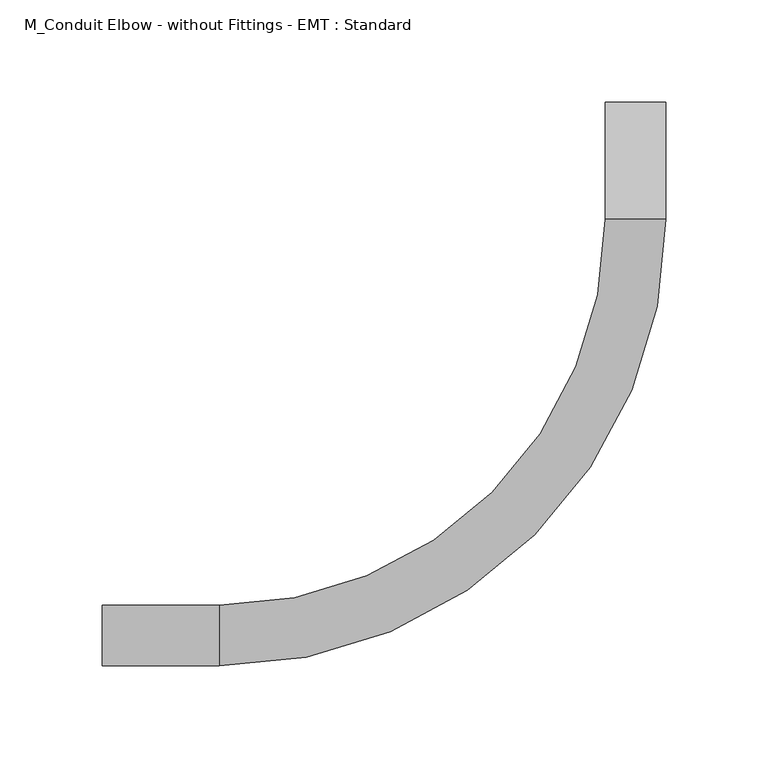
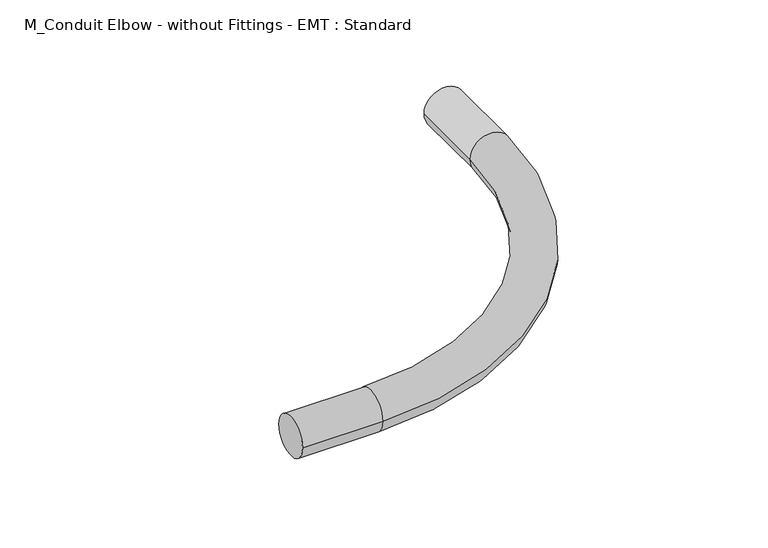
"""IFC4 building model written with IfcOpenShell, lengths in millimetres: cable carrier fitting geometry, M_Conduit Elbow - without Fittings - EMT : Standard."""

from ifc_helpers import new_model, si_unit, point, frame, origin, place, context, project, spatial, circle_curve, ellipse_curve, trimmed, source, transform, mapped, element, save
from ifc_brep_helpers import plane_surface, cylinder_surface, revolved_surface, advanced_brep


def m_conduit_elbow_without_fittings_emt_standard_770008fc(model_context):
    return source(origin(), model_context, "Body", "AdvancedBrep", [
        advanced_brep(
        [(-260.48, -14.7701, 0.0), (-260.48, 14.7701, 0.0), (-203.33, -14.7701, 0.0), (-203.33, 14.7701, 0.0), (-14.7701, 203.33, 0.0), (14.7701, 203.33, 0.0), (14.7701, 260.48, 0.0), (-14.7701, 260.48, 0.0)],
        [
            (0, 1, circle_curve(frame((-260.48, 0.0, 0.0), z_axis=(-1.0, 0.0, 0.0), x_axis=(0.0, 1.0, 0.0)), 14.7701)),
            (1, 0, circle_curve(frame((-260.48, 0.0, 0.0), z_axis=(-1.0, 0.0, 0.0), x_axis=(0.0, 1.0, 0.0)), 14.7701)),
            (0, 2),
            (2, 3, circle_curve(frame((-203.33, 0.0, 0.0), z_axis=(-1.0, 0.0, 0.0), x_axis=(0.0, 1.0, 0.0)), 14.7701)),
            (3, 1),
            (3, 2, circle_curve(frame((-203.33, 0.0, 0.0), z_axis=(-1.0, 0.0, 0.0), x_axis=(0.0, 1.0, 0.0)), 14.7701)),
            (4, 3, circle_curve(frame((-203.33, 203.33, 0.0), z_axis=(0.0, 0.0, -1.0), x_axis=(0.0, -1.0, 0.0)), 188.5599)),
            (2, 5, circle_curve(frame((-203.33, 203.33, 0.0), z_axis=(0.0, 0.0, 1.0), x_axis=(0.0, -1.0, 0.0)), 218.1001)),
            (5, 4, circle_curve(frame((0.0, 203.33, 0.0), z_axis=(0.0, -1.0, 0.0), x_axis=(-1.0, 0.0, 0.0)), 14.7701)),
            (4, 5, circle_curve(frame((0.0, 203.33, 0.0), z_axis=(0.0, -1.0, 0.0), x_axis=(-1.0, 0.0, 0.0)), 14.7701)),
            (6, 7, circle_curve(frame((0.0, 260.48, 0.0), z_axis=(0.0, 1.0, 0.0), x_axis=(-1.0, 0.0, 0.0)), 14.7701)),
            (7, 6, circle_curve(frame((0.0, 260.48, 0.0), z_axis=(0.0, 1.0, 0.0), x_axis=(-1.0, 0.0, 0.0)), 14.7701)),
            (5, 6),
            (7, 4),
        ],
        [
            plane_surface(frame((-260.48, 0.0, 0.0), z_axis=(-1.0, 0.0, 0.0), x_axis=(0.0, 0.0, 1.0))),
            cylinder_surface(frame((-260.48, 0.0, 0.0), z_axis=(-1.0, 0.0, 0.0), x_axis=(0.0, 1.0, 0.0)), 14.7701),
            revolved_surface(trimmed(ellipse_curve(frame((-203.33, 0.0, 0.0), z_axis=(-1.0, 0.0, 0.0), x_axis=(0.0, 1.0, 0.0)), 14.7701, 14.7701), [point((-203.33, -14.7701, 0.0))], [point((-203.33, 14.7701, 0.0))], True, "CARTESIAN"), (-203.33, 203.33, 0.0), (0.0, 0.0, 1.0)),
            revolved_surface(trimmed(ellipse_curve(frame((-203.33, 0.0, 0.0), z_axis=(-1.0, 0.0, 0.0), x_axis=(0.0, 1.0, 0.0)), 14.7701, 14.7701), [point((-203.33, 14.7701, 0.0))], [point((-203.33, -14.7701, 0.0))], True, "CARTESIAN"), (-203.33, 203.33, 0.0), (0.0, 0.0, 1.0)),
            plane_surface(frame((0.0, 260.48, 0.0), z_axis=(0.0, 1.0, 0.0), x_axis=(0.0, 0.0, 1.0))),
            cylinder_surface(frame((0.0, 203.33, 0.0), z_axis=(0.0, -1.0, 0.0), x_axis=(-1.0, 0.0, 0.0)), 14.7701),
        ],
        [
            (0, [[1, 2]]),
            (1, [[-1, 3, 4, 5]]),
            (1, [[-2, -5, 6, -3]]),
            (2, [[7, -4, 8, 9]]),
            (3, [[-8, -6, -7, 10]]),
            (4, [[11, 12]]),
            (5, [[-9, 13, -12, 14]]),
            (5, [[-10, -14, -11, -13]]),
        ],
    ),
    ])


if __name__ == "__main__":
    model = new_model("IFC4")
    model_context = context("Model", 3, world=origin())
    ifc_project = project(units=[si_unit("LENGTHUNIT", "METRE", prefix="MILLI")], contexts=[model_context])
    site = spatial("IfcSite", under=ifc_project)
    building = spatial("IfcBuilding", under=site)
    placement = place(None, origin())
    m_conduit_elbow_without_fittings_emt_standard_shape = m_conduit_elbow_without_fittings_emt_standard_770008fc(model_context)
    element("IfcCableCarrierFitting", 1, ObjectType="M_Conduit Elbow - without Fittings - EMT : Standard", at=placement, inside=building, context=model_context, shape_type="MappedRepresentation", body=[
        mapped(m_conduit_elbow_without_fittings_emt_standard_shape, transform((0.0, 0.0, 0.0), x_axis=(1.0, 0.0, 0.0), y_axis=(0.0, 1.0, 0.0), z_axis=(0.0, 0.0, 1.0))),
    ])
    save(model, "model.ifc")
